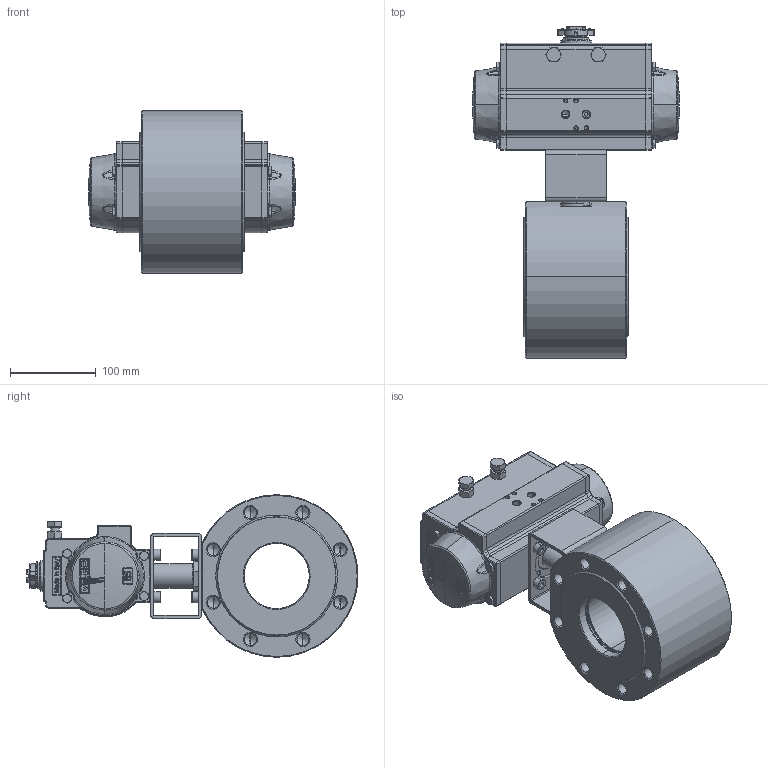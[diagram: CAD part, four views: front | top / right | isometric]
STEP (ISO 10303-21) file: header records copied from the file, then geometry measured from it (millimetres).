
FILE_DESCRIPTION (( 'STEP AP214' ), '1' );
FILE_NAME ('8P003500141.STEP', '2017-05-24T09:42:46', ( 'Negroni' ), ( 'Hewlett-Packard Company' ), 'SwSTEP 2.0', 'SolidWorks 2015', '' );
FILE_SCHEMA (( 'AUTOMOTIVE_DESIGN' ));
Length unit declared in the file: millimetre
Products named in the file (1): 8P003500141
Bounding box: 240.69 x 386.75 x 189.5 mm (x, y, z)
Volume: 5404266.6 mm3; surface area: 333581.2 mm2
Topology: 1 solids, 1 shells, 1972 faces, 5126 edges, 3163 vertices
Faces by surface type: plane 730, bspline 575, cone 337, cylinder 305, torus 22, sphere 3
Entity records: 108048 total; most frequent: CARTESIAN_POINT 54975, ORIENTED_EDGE 9990, DIRECTION 6564, EDGE_CURVE 4995, VERTEX_POINT 3148, AXIS2_PLACEMENT_3D 2295, EDGE_LOOP 2117, LINE 1974
